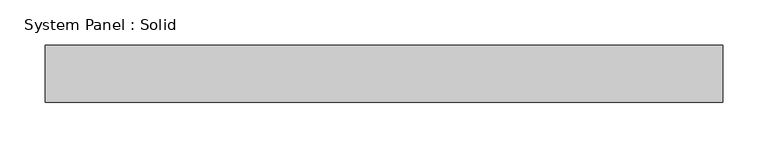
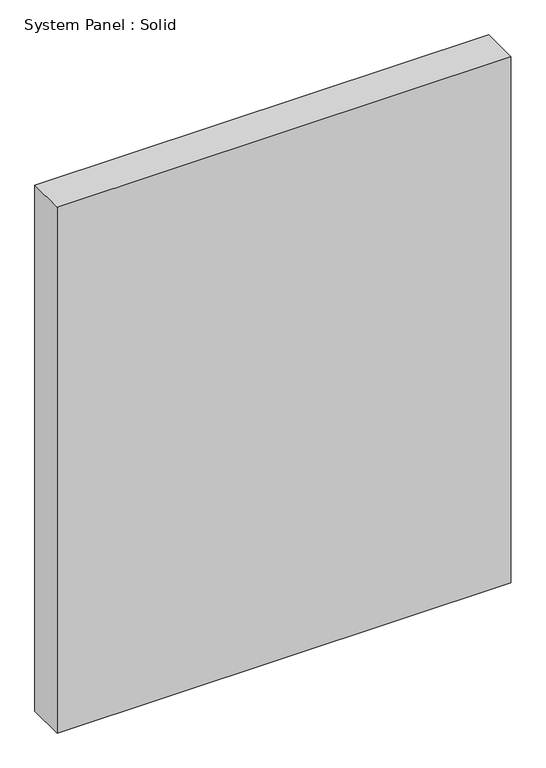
"""IFC4 building model written with IfcOpenShell, lengths in millimetres: plate geometry, System Panel : Solid."""

from ifc_helpers import new_model, si_unit, origin, origin_with_axes, place, context, project, spatial, polyline, outline, extrude, source, transform, mapped, element, save


def system_panel_solid_db451ef0(model_context):
    return source(origin(), model_context, "Body", "SweptSolid", [
        extrude(outline(polyline([(375.7570972, -19.05), (-375.7570972, -19.05), (-375.7570972, 44.45), (375.7570972, 44.45), (375.7570972, -19.05)])), origin_with_axes(), (0.0, 0.0, 1.0), 920.75),
    ])


if __name__ == "__main__":
    model = new_model("IFC4")
    model_context = context("Model", 3, world=origin())
    ifc_project = project(units=[si_unit("LENGTHUNIT", "METRE", prefix="MILLI")], contexts=[model_context])
    site = spatial("IfcSite", under=ifc_project)
    building = spatial("IfcBuilding", under=site)
    placement = place(None, origin())
    system_panel_solid_shape = system_panel_solid_db451ef0(model_context)
    element("IfcPlate", 1, ObjectType="System Panel : Solid", at=placement, inside=building, context=model_context, shape_type="MappedRepresentation", body=[
        mapped(system_panel_solid_shape, transform((0.0, 0.0, 0.0), x_axis=(1.0, 0.0, 0.0), y_axis=(0.0, 1.0, 0.0), z_axis=(0.0, 0.0, 1.0))),
    ])
    save(model, "model.ifc")
